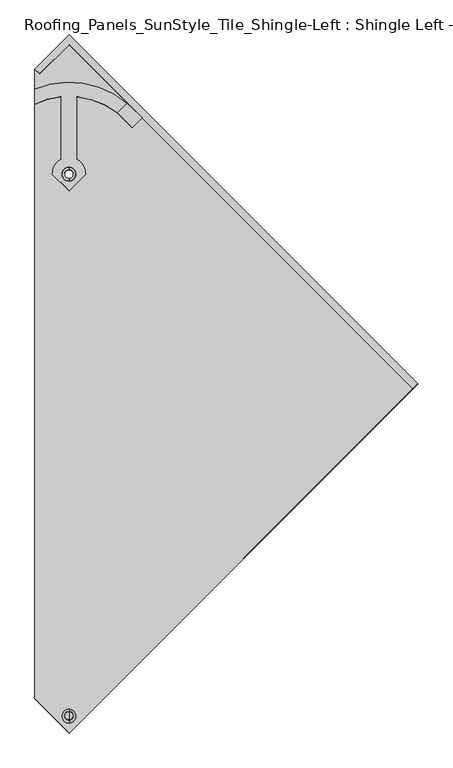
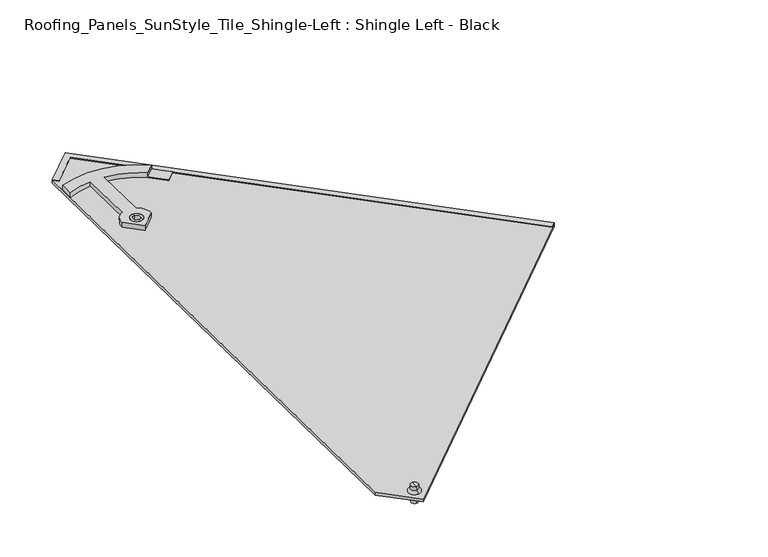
"""IFC4 building model written with IfcOpenShell, lengths in millimetres: proxy geometry, Roofing_Panels_SunStyle_Tile_Shingle-Left : Shingle Left - Black."""

from ifc_helpers import new_model, si_unit, point, frame, frame_2d, origin, place, context, project, spatial, polyline, circle_curve, ellipse_curve, trimmed, segment, composite_curve, outline, extrude, source, transform, mapped, element, save
from ifc_brep_helpers import plane_surface, cylinder_surface, revolved_surface, advanced_brep


def roofing_panels_sunstyle_tile_shingle_left_shingle_left_black_68cb1fd1(model_context):
    return source(origin(), model_context, "Body", "SolidModel", [
        advanced_brep(
        [(0.0, -592.202006, 26.2215343), (0.0, -578.8689254, 25.9982384), (0.0, -579.2372345, 4.0063691), (0.0, -592.5703151, 4.229665), (0.0, -597.7012348, 26.3136327), (0.0, -573.3696966, 25.90614), (0.0, -592.7522385, 31.2274395), (0.0, -578.1513756, 30.9829114), (0.0, -585.3177786, 39.1080636), (0.0, -578.0173471, 38.9857996), (0.0, -592.6182101, 39.2303277), (0.0, -585.9037748, 4.118017)],
        [
            (0, 1, circle_curve(frame((0.0, -585.5354657, 26.1098864), z_axis=(0.0, -0.016745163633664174, -0.9998597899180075), x_axis=(0.0, 0.9998597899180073, -0.01674516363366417)), 6.6674751)),
            (1, 2),
            (2, 3, circle_curve(frame((0.0, -585.9037748, 4.118017), z_axis=(0.0, 0.016745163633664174, 0.9998597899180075), x_axis=(0.0, 0.9998597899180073, -0.01674516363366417)), 6.6674751)),
            (3, 0),
            (1, 0, circle_curve(frame((0.0, -585.5354657, 26.1098864), z_axis=(0.0, -0.016745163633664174, -0.9998597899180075), x_axis=(0.0, 0.9998597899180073, -0.01674516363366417)), 6.6674751)),
            (3, 2, circle_curve(frame((0.0, -585.9037748, 4.118017), z_axis=(0.0, 0.016745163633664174, 0.9998597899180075), x_axis=(0.0, 0.9998597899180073, -0.01674516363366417)), 6.6674751)),
            (4, 5, circle_curve(frame((0.0, -585.5354657, 26.1098864), z_axis=(0.0, -0.016745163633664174, -0.9998597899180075), x_axis=(0.0, 0.9998597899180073, -0.01674516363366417)), 12.1674751)),
            (5, 1),
            (0, 4),
            (5, 4, circle_curve(frame((0.0, -585.5354657, 26.1098864), z_axis=(0.0, -0.016745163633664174, -0.9998597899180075), x_axis=(0.0, 0.9998597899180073, -0.01674516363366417)), 12.1674751)),
            (6, 7, circle_curve(frame((0.0, -585.451807, 31.1051755), z_axis=(0.0, -0.016745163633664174, -0.9998597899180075), x_axis=(0.0, 0.9998597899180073, -0.01674516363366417)), 7.3014552)),
            (7, 5, circle_curve(frame((0.0, -578.4555735, 25.90614), z_axis=(-1.0, 0.0, 0.0), x_axis=(0.0, -1.0, 0.0)), 5.0858769)),
            (4, 6, circle_curve(frame((0.0, -592.6182101, 26.1433289), z_axis=(-1.0, 0.0, 0.0), x_axis=(0.0, 0.9994391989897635, -0.03348563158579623)), 5.0858769)),
            (7, 6, circle_curve(frame((0.0, -585.451807, 31.1051755), z_axis=(0.0, -0.016745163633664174, -0.9998597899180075), x_axis=(0.0, 0.9998597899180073, -0.01674516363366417)), 7.3014552)),
            (8, 9),
            (9, 10, circle_curve(frame((0.0, -585.3177786, 39.1080636), z_axis=(0.0, 0.016745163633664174, 0.9998597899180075), x_axis=(0.0, 0.9998597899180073, -0.01674516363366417)), 7.3014552)),
            (10, 8),
            (10, 9, circle_curve(frame((0.0, -585.3177786, 39.1080636), z_axis=(0.0, 0.016745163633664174, 0.9998597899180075), x_axis=(0.0, 0.9998597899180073, -0.01674516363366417)), 7.3014552)),
            (2, 11),
            (11, 3),
            (9, 7),
            (6, 10),
        ],
        [
            cylinder_surface(frame((0.0, -585.3177786, 39.1080636), z_axis=(0.0, 0.01674516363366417, 0.9998597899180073), x_axis=(0.0, 0.9998597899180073, -0.01674516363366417)), 6.6674751),
            plane_surface(frame((0.0, -585.5354657, 26.1098864), z_axis=(0.0, -0.016745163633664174, -0.9998597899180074), x_axis=(0.0, 0.9998597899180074, -0.016745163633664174))),
            revolved_surface(trimmed(ellipse_curve(frame((0.0, -578.4555735, 25.90614), z_axis=(1.0, 0.0, 0.0), x_axis=(0.0, -1.0, 0.0)), 5.0858769, 5.0858769), [point((0.0, -573.3696966, 25.90614))], [point((0.0, -578.1513756, 30.9829114))], True, "CARTESIAN"), (0.0, -585.3177786, 39.1080636), (0.0, 0.01674516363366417, 0.9998597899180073)),
            plane_surface(frame((0.0, -585.3177786, 39.1080636), z_axis=(0.0, 0.016745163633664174, 0.9998597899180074), x_axis=(0.0, 0.9998597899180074, -0.016745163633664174))),
            plane_surface(frame((0.0, -585.9037748, 4.118017), z_axis=(0.0, -0.016745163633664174, -0.9998597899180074), x_axis=(0.0, 0.9998597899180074, -0.016745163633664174))),
            cylinder_surface(frame((0.0, -585.3177786, 39.1080636), z_axis=(0.0, 0.01674516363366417, 0.9998597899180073), x_axis=(0.0, 0.9998597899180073, -0.01674516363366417)), 7.3014552),
        ],
        [
            (0, [[1, 2, 3, 4]]),
            (0, [[5, -4, 6, -2]]),
            (1, [[7, 8, -1, 9]]),
            (1, [[10, -9, -5, -8]]),
            (2, [[11, 12, -7, 13]]),
            (2, [[14, -13, -10, -12]]),
            (3, [[15, 16, 17]]),
            (3, [[-17, 18, -15]]),
            (4, [[-3, 19, 20]]),
            (4, [[-6, -20, -19]]),
            (5, [[-16, 21, -11, 22]]),
            (5, [[-18, -22, -14, -21]]),
        ],
    ),
        advanced_brep(
        [(0.0, 361.8961325, 20.2441668), (0.0, 377.2289335, 19.9873805), (0.0, 381.7283021, 19.9120273), (0.0, 357.3967639, 20.31952), (0.0, 361.6282103, 4.2464102), (0.0, 376.9610105, 3.9896239), (0.0, 357.1288413, 4.3217634), (0.0, 381.4603795, 3.9142707)],
        [
            (0, 1, circle_curve(frame((0.0, 369.562533, 20.1157737), z_axis=(0.0, -0.016745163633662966, -0.9998597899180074), x_axis=(0.0, 0.9998597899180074, -0.016745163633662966)), 7.6674755)),
            (1, 2),
            (2, 3, circle_curve(frame((0.0, 369.562533, 20.1157737), z_axis=(0.0, 0.016745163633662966, 0.9998597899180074), x_axis=(0.0, 0.9998597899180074, -0.016745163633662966)), 12.1674751)),
            (3, 0),
            (1, 0, circle_curve(frame((0.0, 369.562533, 20.1157737), z_axis=(0.0, -0.016745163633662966, -0.9998597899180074), x_axis=(0.0, 0.9998597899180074, -0.016745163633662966)), 7.6674755)),
            (3, 2, circle_curve(frame((0.0, 369.562533, 20.1157737), z_axis=(0.0, 0.016745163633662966, 0.9998597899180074), x_axis=(0.0, 0.9998597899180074, -0.016745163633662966)), 12.1674751)),
            (4, 5, circle_curve(frame((0.0, 369.2946104, 4.118017), z_axis=(0.0, -0.016745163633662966, -0.9998597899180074), x_axis=(0.0, 0.9998597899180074, -0.016745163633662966)), 7.6674751)),
            (5, 1),
            (0, 4),
            (5, 4, circle_curve(frame((0.0, 369.2946104, 4.118017), z_axis=(0.0, -0.016745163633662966, -0.9998597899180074), x_axis=(0.0, 0.9998597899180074, -0.016745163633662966)), 7.6674751)),
            (6, 7, circle_curve(frame((0.0, 369.2946104, 4.118017), z_axis=(0.0, -0.016745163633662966, -0.9998597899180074), x_axis=(0.0, 0.9998597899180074, -0.016745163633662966)), 12.1674751)),
            (7, 5),
            (4, 6),
            (7, 6, circle_curve(frame((0.0, 369.2946104, 4.118017), z_axis=(0.0, -0.016745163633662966, -0.9998597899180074), x_axis=(0.0, 0.9998597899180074, -0.016745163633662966)), 12.1674751)),
            (2, 7),
            (6, 3),
        ],
        [
            plane_surface(frame((0.0, 369.562533, 20.1157737), z_axis=(0.0, 0.016745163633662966, 0.9998597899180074), x_axis=(0.0, 0.9998597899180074, -0.016745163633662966))),
            revolved_surface(polyline([(0.0, 377.2289330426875, 19.987380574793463), (0.0, 376.96101042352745, 3.989623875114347)]), (0.0, 369.562533, 20.1157737), (0.0, 0.016745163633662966, 0.9998597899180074)),
            plane_surface(frame((0.0, 369.2946104, 4.118017), z_axis=(0.0, -0.016745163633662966, -0.9998597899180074), x_axis=(0.0, 0.9998597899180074, -0.016745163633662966))),
            cylinder_surface(frame((0.0, 369.562533, 20.1157737), z_axis=(0.0, 0.016745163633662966, 0.9998597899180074), x_axis=(0.0, 0.9998597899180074, -0.016745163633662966)), 12.1674751),
        ],
        [
            (0, [[1, 2, 3, 4]]),
            (0, [[5, -4, 6, -2]]),
            (1, [[7, 8, -1, 9]]),
            (1, [[10, -9, -5, -8]]),
            (2, [[11, 12, -7, 13]]),
            (2, [[14, -13, -10, -12]]),
            (3, [[-3, 15, -11, 16]]),
            (3, [[-6, -16, -14, -15]]),
        ],
    ),
        extrude(outline(polyline([(0.0, -11.9999999), (0.0, 0.0), (858.0626589, 0.0), (858.0728943, 72.9957231), (870.0728943, 72.9940405), (870.0609764, -12.0), (0.0, -11.9999999)])), frame((606.7847845, -8.5982257, 16.4476231), z_axis=(0.0, 0.016745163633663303, 0.9998597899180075), x_axis=(-0.7071563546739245, 0.7069580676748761, -0.011839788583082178)), (0.0, 0.0, 1.0), 1.5),
        extrude(outline(polyline([(995.0941908, 0.0), (995.2161906, -870.0609679), (125.1552142, -870.0609678), (125.1432964, -785.0669274), (910.1001495, 0.0), (995.0941908, 0.0)]), holes=[composite_curve([segment(trimmed(circle_curve(frame_2d((146.1396988, -849.0730846)), 8.0), [point((140.4824479, -843.4166269))], [point((151.7969496, -854.7295422))], True, "CARTESIAN"), True, "CONTINUOUS"), segment(trimmed(circle_curve(frame_2d((146.1396988, -849.0730846)), 8.0), [point((151.7969496, -854.7295422))], [point((140.4824479, -843.4166269))], True, "CARTESIAN"), True, "CONTINUOUS")], self_intersect=False), composite_curve([segment(trimmed(circle_curve(frame_2d((821.5432581, -173.5748135)), 12.0), [point((813.0573819, -165.0901271))], [point((830.0291344, -182.0595))], True, "CARTESIAN"), True, "CONTINUOUS"), segment(trimmed(circle_curve(frame_2d((821.5432581, -173.5748135)), 12.0), [point((830.0291344, -182.0595))], [point((813.0573819, -165.0901271))], True, "CARTESIAN"), True, "CONTINUOUS")], self_intersect=False)]), frame((-703.686858, -88.6072499, 11.7867338), z_axis=(0.0, 0.01674516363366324, 0.9998597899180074), x_axis=(0.7071563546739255, 0.7069580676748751, -0.011839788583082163)), (0.0, 0.0, 1.0), 6.0),
        advanced_brep(
        [(-60.1037539, 519.6893101, 17.6015237), (-60.1037539, 492.9630774, 18.0491216), (-13.3, 505.8109871, 17.8339511), (-13.3, 395.9341043, 19.6741155), (-29.3894281, 369.7299846, 20.1129693), (0.0, 340.3446773, 20.6051), (29.3894281, 369.7299846, 20.1129693), (13.3, 395.9341043, 19.6741155), (13.3, 505.8109871, 17.8339511), (84.944396, 477.9190769, 18.3010712), (102.0275718, 494.9998575, 18.0150106), (-12.0, 369.7299846, 20.1129693), (12.0, 369.7299846, 20.1129693), (-60.1037539, 519.5218584, 7.6029258), (102.0275718, 494.8324058, 8.0164127), (114.2509691, 483.797483, 8.2012202), (128.9467134, 469.1058594, 8.4472683), (111.2690438, 451.4306685, 8.7432838), (84.9431983, 477.7528228, 8.3024532), (13.3, 505.6435355, 7.8353532), (13.3, 395.7666527, 9.6755176), (29.3894281, 369.562533, 10.1143714), (0.0, 340.1772257, 10.6065021), (-29.3894281, 369.562533, 10.1143714), (-13.3, 395.7666527, 9.6755176), (-13.3, 505.6435355, 7.8353532), (-60.1037539, 492.7956258, 8.0505237), (-12.0, 369.562533, 10.1143714), (12.0, 369.562533, 10.1143714), (102.0275718, 494.8742688, 10.5160622), (128.9467134, 469.1477223, 10.9469178), (114.2509691, 483.8393459, 10.7008697), (84.944396, 477.7934882, 10.8021227), (111.2690438, 451.4725314, 11.2429333)],
        [
            (0, 1),
            (1, 2, circle_curve(frame((0.0, 365.7229584, 20.180077), z_axis=(0.0, -0.01674516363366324, -0.9998597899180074), x_axis=(1.0, 0.0, 0.0)), 140.737522)),
            (2, 3),
            (3, 4, circle_curve(frame((0.0, 369.7299846, 20.1129693), z_axis=(0.0, 0.01674516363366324, 0.9998597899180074), x_axis=(1.0, 0.0, 0.0)), 29.3894281)),
            (4, 5),
            (5, 6),
            (6, 7, circle_curve(frame((0.0, 369.7299846, 20.1129693), z_axis=(0.0, 0.01674516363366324, 0.9998597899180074), x_axis=(1.0, 0.0, 0.0)), 29.3894281)),
            (7, 8),
            (8, 9, circle_curve(frame((0.0, 365.7229584, 20.180077), z_axis=(0.0, -0.01674516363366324, -0.9998597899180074), x_axis=(1.0, 0.0, 0.0)), 140.737522)),
            (9, 10),
            (10, 0, circle_curve(frame((0.0, 369.7299846, 20.1129693), z_axis=(0.0, 0.01674516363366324, 0.9998597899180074), x_axis=(1.0, 0.0, 0.0)), 161.57527)),
            (11, 12, circle_curve(frame((0.0, 369.7299846, 20.1129693), z_axis=(0.0, -0.01674516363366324, -0.9998597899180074), x_axis=(1.0, 0.0, 0.0)), 12.0)),
            (12, 11, circle_curve(frame((0.0, 369.7299846, 20.1129693), z_axis=(0.0, -0.01674516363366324, -0.9998597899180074), x_axis=(1.0, 0.0, 0.0)), 12.0)),
            (13, 14, circle_curve(frame((0.0, 369.562533, 10.1143714), z_axis=(0.0, -0.01674516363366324, -0.9998597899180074), x_axis=(1.0, 0.0, 0.0)), 161.57527)),
            (14, 15, circle_curve(frame((0.0, 369.562533, 10.1143714), z_axis=(0.0, -0.01674516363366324, -0.9998597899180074), x_axis=(1.0, 0.0, 0.0)), 161.57527)),
            (15, 16),
            (16, 17),
            (17, 18),
            (18, 19, circle_curve(frame((0.0, 365.5555068, 10.1814791), z_axis=(0.0, 0.01674516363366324, 0.9998597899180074), x_axis=(1.0, 0.0, 0.0)), 140.737522)),
            (19, 20),
            (20, 21, circle_curve(frame((0.0, 369.562533, 10.1143714), z_axis=(0.0, -0.01674516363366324, -0.9998597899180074), x_axis=(1.0, 0.0, 0.0)), 29.3894281)),
            (21, 22),
            (22, 23),
            (23, 24, circle_curve(frame((0.0, 369.562533, 10.1143714), z_axis=(0.0, -0.01674516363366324, -0.9998597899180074), x_axis=(1.0, 0.0, 0.0)), 29.3894281)),
            (24, 25),
            (25, 26, circle_curve(frame((0.0, 365.5555068, 10.1814791), z_axis=(0.0, 0.01674516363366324, 0.9998597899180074), x_axis=(1.0, 0.0, 0.0)), 140.737522)),
            (26, 13),
            (27, 28, circle_curve(frame((0.0, 369.562533, 10.1143714), z_axis=(0.0, 0.01674516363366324, 0.9998597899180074), x_axis=(1.0, 0.0, 0.0)), 12.0)),
            (28, 27, circle_curve(frame((0.0, 369.562533, 10.1143714), z_axis=(0.0, 0.01674516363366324, 0.9998597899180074), x_axis=(1.0, 0.0, 0.0)), 12.0)),
            (2, 25),
            (24, 3),
            (23, 4),
            (22, 5),
            (21, 6),
            (20, 7),
            (19, 8),
            (10, 29),
            (29, 14),
            (13, 0),
            (11, 27),
            (28, 12),
            (30, 31),
            (31, 29, circle_curve(frame((0.0, 369.6043959, 12.6140208), z_axis=(0.0, 0.01674516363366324, 0.9998597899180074), x_axis=(1.0, 0.0, 0.0)), 161.57527)),
            (29, 32),
            (32, 33),
            (33, 30),
            (30, 16),
            (15, 31),
            (33, 17),
            (32, 18),
            (9, 32),
            (1, 26),
        ],
        [
            plane_surface(frame((-60.1037539, 555.0633158, 17.0090971), z_axis=(0.0, 0.01674516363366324, 0.9998597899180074), x_axis=(0.0, -0.9998597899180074, 0.01674516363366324))),
            plane_surface(frame((-60.1037539, 554.8958642, 7.0104992), z_axis=(0.0, -0.01674516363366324, -0.9998597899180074), x_axis=(0.0, 0.9998597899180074, -0.01674516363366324))),
            plane_surface(frame((-13.3, 505.8109871, 17.8339511), z_axis=(-1.0000000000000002, 0.0, 0.0), x_axis=(0.0, -0.01674516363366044, -0.9998597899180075))),
            cylinder_surface(frame((0.0, 369.562533, 10.1143714), z_axis=(0.0, 0.01674516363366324, 0.9998597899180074), x_axis=(1.0, 0.0, 0.0)), 29.3894281),
            plane_surface(frame((-29.3894281, 369.7299846, 20.1129693), z_axis=(-0.7071067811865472, -0.7070076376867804, 0.011840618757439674), x_axis=(0.0, -0.01674516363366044, -0.9998597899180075))),
            plane_surface(frame((0.0, 340.3446773, 20.6051), z_axis=(0.7071067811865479, -0.7070076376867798, 0.01184061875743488), x_axis=(0.0, -0.016745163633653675, -0.9998597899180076))),
            plane_surface(frame((13.3, 395.9341043, 19.6741155), z_axis=(1.0000000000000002, 0.0, 0.0), x_axis=(0.0, -0.016745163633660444, -0.9998597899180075))),
            cylinder_surface(frame((0.0, 369.562533, 10.1143714), z_axis=(0.0, 0.01674516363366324, 0.9998597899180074), x_axis=(1.0, 0.0, 0.0)), 161.57527),
            revolved_surface(polyline([(12.0, 369.562533, 10.1143714), (12.0, 369.72998463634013, 20.112969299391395)]), (0.0, 369.562533, 10.1143714), (0.0, -0.01674516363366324, -0.9998597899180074)),
            plane_surface(frame((128.9467134, 469.1477223, 10.9469178), z_axis=(0.0, 0.01674516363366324, 0.9998597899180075), x_axis=(-0.7071563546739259, 0.7069580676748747, -0.011839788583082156))),
            plane_surface(frame((128.9467134, 469.1477223, 10.9469178), z_axis=(0.7070572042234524, 0.7070572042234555, -0.011841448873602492), x_axis=(0.0, -0.016745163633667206, -0.9998597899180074))),
            plane_surface(frame((111.2690438, 451.4725314, 11.2429333), z_axis=(0.7071067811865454, -0.7070076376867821, 0.011840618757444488), x_axis=(0.0, -0.016745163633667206, -0.9998597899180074))),
            plane_surface(frame((84.9431983, 477.7946858, 10.8021027), z_axis=(-0.7071067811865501, -0.7070076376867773, 0.011840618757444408), x_axis=(0.0, -0.016745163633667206, -0.9998597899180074))),
            plane_surface(frame((84.944396, 477.9190769, 18.3010712), z_axis=(0.7071067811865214, -0.7070076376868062, 0.011840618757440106), x_axis=(0.0, -0.01674516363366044, -0.9998597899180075))),
            revolved_surface(polyline([(140.737522, 365.5555067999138, 10.18147909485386), (140.737522, 365.722958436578, 20.18007701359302)]), (0.0, 365.5555068, 10.1814791), (0.0, -0.01674516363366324, -0.9998597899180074)),
            revolved_surface(polyline([(140.737522, 365.55550679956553, 10.181479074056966), (140.737522, 365.72295843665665, 20.180077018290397)]), (0.0, 365.5555068, 10.1814791), (0.0, -0.01674516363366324, -0.9998597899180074)),
            plane_surface(frame((-60.1037539, 519.6893101, 17.6015237), z_axis=(-1.0000000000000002, 0.0, 0.0), x_axis=(0.0, -0.01674516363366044, -0.9998597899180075))),
        ],
        [
            (0, [[1, 2, 3, 4, 5, 6, 7, 8, 9, 10, 11], [12, 13]]),
            (1, [[14, 15, 16, 17, 18, 19, 20, 21, 22, 23, 24, 25, 26, 27], [28, 29]]),
            (2, [[-3, 30, -25, 31]]),
            (3, [[-4, -31, -24, 32]]),
            (4, [[-5, -32, -23, 33]]),
            (5, [[-6, -33, -22, 34]]),
            (3, [[-7, -34, -21, 35]]),
            (6, [[-8, -35, -20, 36]]),
            (7, [[-11, 37, 38, -14, 39]]),
            (8, [[-12, 40, -29, 41]]),
            (8, [[-13, -41, -28, -40]]),
            (9, [[42, 43, 44, 45, 46]]),
            (10, [[-42, 47, -16, 48]]),
            (11, [[-46, 49, -17, -47]]),
            (7, [[-43, -48, -15, -38]]),
            (12, [[-45, 50, -18, -49]]),
            (13, [[-10, 51, -44, -37]]),
            (14, [[-2, 52, -26, -30]]),
            (15, [[-9, -36, -19, -50, -51]]),
            (16, [[-1, -39, -27, -52]]),
        ],
    ),
    ])


if __name__ == "__main__":
    model = new_model("IFC4")
    model_context = context("Model", 3, world=origin())
    ifc_project = project(units=[si_unit("LENGTHUNIT", "METRE", prefix="MILLI")], contexts=[model_context])
    site = spatial("IfcSite", under=ifc_project)
    building = spatial("IfcBuilding", under=site)
    placement = place(None, origin())
    roofing_panels_sunstyle_tile_shingle_left_shingle_left_black_shape = roofing_panels_sunstyle_tile_shingle_left_shingle_left_black_68cb1fd1(model_context)
    element("IfcBuildingElementProxy", 1, Name="Roofing_Panels_SunStyle_Tile_Shingle-Left : Shingle Left - Black", ObjectType="Roofing_Panels_SunStyle_Tile_Shingle-Left : Shingle Left - Black", at=placement, inside=building, context=model_context, shape_type="MappedRepresentation", body=[
        mapped(roofing_panels_sunstyle_tile_shingle_left_shingle_left_black_shape, transform((0.0, 0.0, 0.0), x_axis=(1.0, 0.0, 0.0), y_axis=(0.0, 1.0, 0.0), z_axis=(0.0, 0.0, 1.0))),
    ])
    save(model, "model.ifc")
